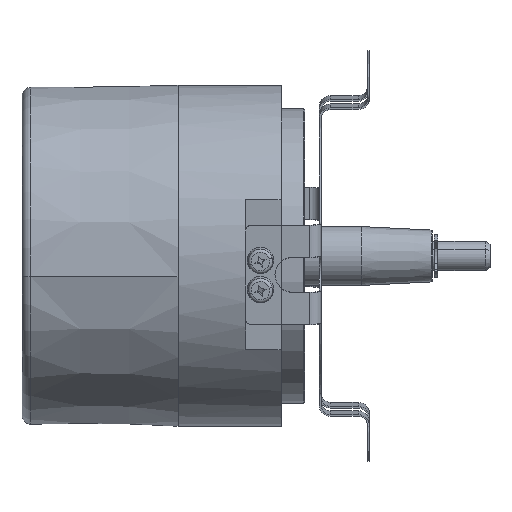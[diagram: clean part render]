
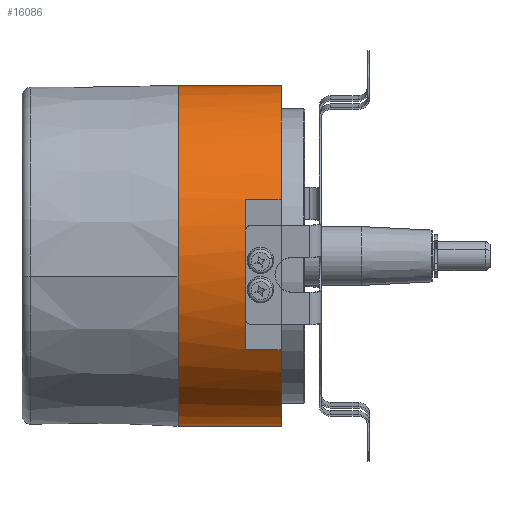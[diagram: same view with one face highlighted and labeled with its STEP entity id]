
A CAD part, front view. The second image highlights one B-rep face of the part: STEP entity #16086.
In plain terms, the highlighted cylindrical face has radius 29 mm (diameter 58 mm), a partial arc.
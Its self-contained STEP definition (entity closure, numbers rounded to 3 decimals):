
#9861 = DIRECTION ( 'NONE',  ( 0., 0., 1. ) ) ;
#9862 = DIRECTION ( 'NONE',  ( -1., 0., 0. ) ) ;
#9863 = CARTESIAN_POINT ( 'NONE',  ( 19., 0., 0. ) ) ;
#9864 = AXIS2_PLACEMENT_3D ( 'NONE', #9863, #9862, #9861 ) ;
#9865 = CIRCLE ( 'NONE', #9864, 29. ) ;
#9867 = CARTESIAN_POINT ( 'NONE',  ( 19., -27.372, 9.581 ) ) ;
#10111 = VECTOR ( 'NONE', #10162, 1000. ) ;
#10112 = CARTESIAN_POINT ( 'NONE',  ( 19., -24.241, -15.918 ) ) ;
#10113 = LINE ( 'NONE', #10112, #10111 ) ;
#10114 = CARTESIAN_POINT ( 'NONE',  ( 25., -27.372, 9.581 ) ) ;
#10115 = DIRECTION ( 'NONE',  ( 1., 0., 0. ) ) ;
#10116 = VECTOR ( 'NONE', #10115, 1000. ) ;
#10117 = CARTESIAN_POINT ( 'NONE',  ( 19., -27.372, 9.581 ) ) ;
#10118 = LINE ( 'NONE', #10117, #10116 ) ;
#10161 = CARTESIAN_POINT ( 'NONE',  ( 25., -24.241, -15.918 ) ) ;
#10162 = DIRECTION ( 'NONE',  ( 1., 0., 0. ) ) ;
#10249 = LINE ( 'NONE', #10306, #10305 ) ;
#10292 = CARTESIAN_POINT ( 'NONE',  ( 25., 0., 29. ) ) ;
#10293 = DIRECTION ( 'NONE',  ( -1., 0., 0. ) ) ;
#10294 = VECTOR ( 'NONE', #10293, 1000. ) ;
#10295 = CARTESIAN_POINT ( 'NONE',  ( -1.393, 0., 29. ) ) ;
#10296 = LINE ( 'NONE', #10295, #10294 ) ;
#10297 = CARTESIAN_POINT ( 'NONE',  ( 7.5, 0., 29. ) ) ;
#10303 = CARTESIAN_POINT ( 'NONE',  ( 7.5, 0., -29. ) ) ;
#10304 = DIRECTION ( 'NONE',  ( -1., 0., 0. ) ) ;
#10305 = VECTOR ( 'NONE', #10304, 1000. ) ;
#10306 = CARTESIAN_POINT ( 'NONE',  ( -1.393, 0., -29. ) ) ;
#10350 = DIRECTION ( 'NONE',  ( 0., 0., 1. ) ) ;
#10351 = DIRECTION ( 'NONE',  ( -1., 0., 0. ) ) ;
#10352 = AXIS2_PLACEMENT_3D ( 'NONE', #10360, #10351, #10350 ) ;
#10353 = CIRCLE ( 'NONE', #10352, 29. ) ;
#10360 = CARTESIAN_POINT ( 'NONE',  ( 7.5, 0., 0. ) ) ;
#10389 = CARTESIAN_POINT ( 'NONE',  ( 19., -24.241, -15.918 ) ) ;
#10497 = CARTESIAN_POINT ( 'NONE',  ( 25., 0., -29. ) ) ;
#11007 = FACE_OUTER_BOUND ( 'NONE', #16087, .T. ) ;
#11037 = DIRECTION ( 'NONE',  ( 0., 0., 1. ) ) ;
#11038 = DIRECTION ( 'NONE',  ( -1., 0., 0. ) ) ;
#11039 = CARTESIAN_POINT ( 'NONE',  ( 25., 0., 0. ) ) ;
#11040 = AXIS2_PLACEMENT_3D ( 'NONE', #11039, #11038, #11037 ) ;
#11042 = DIRECTION ( 'NONE',  ( 0., 0., 1. ) ) ;
#11043 = DIRECTION ( 'NONE',  ( -1., 0., 0. ) ) ;
#11044 = CARTESIAN_POINT ( 'NONE',  ( -1.393, 0., 0. ) ) ;
#11045 = AXIS2_PLACEMENT_3D ( 'NONE', #11044, #11043, #11042 ) ;
#11046 = CIRCLE ( 'NONE', #11040, 29. ) ;
#11047 = CYLINDRICAL_SURFACE ( 'NONE', #11045, 29. ) ;
#11176 = DIRECTION ( 'NONE',  ( 0., 0., 1. ) ) ;
#11177 = DIRECTION ( 'NONE',  ( -1., 0., 0. ) ) ;
#11178 = CARTESIAN_POINT ( 'NONE',  ( 25., 0., 0. ) ) ;
#11179 = AXIS2_PLACEMENT_3D ( 'NONE', #11178, #11177, #11176 ) ;
#11180 = CIRCLE ( 'NONE', #11179, 29. ) ;
#14806 = VERTEX_POINT ( 'NONE', #9867 ) ;
#14808 = EDGE_CURVE ( 'NONE', #15877, #14806, #9865, .T. ) ;
#15800 = EDGE_CURVE ( 'NONE', #14806, #15801, #10118, .T. ) ;
#15801 = VERTEX_POINT ( 'NONE', #10114 ) ;
#15804 = EDGE_CURVE ( 'NONE', #15877, #15805, #10113, .T. ) ;
#15805 = VERTEX_POINT ( 'NONE', #10161 ) ;
#15842 = EDGE_CURVE ( 'NONE', #15918, #15843, #10249, .T. ) ;
#15843 = VERTEX_POINT ( 'NONE', #10303 ) ;
#15846 = VERTEX_POINT ( 'NONE', #10297 ) ;
#15848 = EDGE_CURVE ( 'NONE', #15849, #15846, #10296, .T. ) ;
#15849 = VERTEX_POINT ( 'NONE', #10292 ) ;
#15872 = EDGE_CURVE ( 'NONE', #15843, #15846, #10353, .T. ) ;
#15877 = VERTEX_POINT ( 'NONE', #10389 ) ;
#15918 = VERTEX_POINT ( 'NONE', #10497 ) ;
#16086 = ADVANCED_FACE ( 'NONE', ( #11007 ), #11047, .T. ) ;
#16087 = EDGE_LOOP ( 'NONE', ( #16088, #16089, #16148, #16149, #16150, #16151, #16153, #16154 ) ) ;
#16088 = ORIENTED_EDGE ( 'NONE', *, *, #15842, .F. ) ;
#16089 = ORIENTED_EDGE ( 'NONE', *, *, #16090, .T. ) ;
#16090 = EDGE_CURVE ( 'NONE', #15918, #15805, #11046, .T. ) ;
#16148 = ORIENTED_EDGE ( 'NONE', *, *, #15804, .F. ) ;
#16149 = ORIENTED_EDGE ( 'NONE', *, *, #14808, .T. ) ;
#16150 = ORIENTED_EDGE ( 'NONE', *, *, #15800, .T. ) ;
#16151 = ORIENTED_EDGE ( 'NONE', *, *, #16152, .T. ) ;
#16152 = EDGE_CURVE ( 'NONE', #15801, #15849, #11180, .T. ) ;
#16153 = ORIENTED_EDGE ( 'NONE', *, *, #15848, .T. ) ;
#16154 = ORIENTED_EDGE ( 'NONE', *, *, #15872, .F. ) ;
